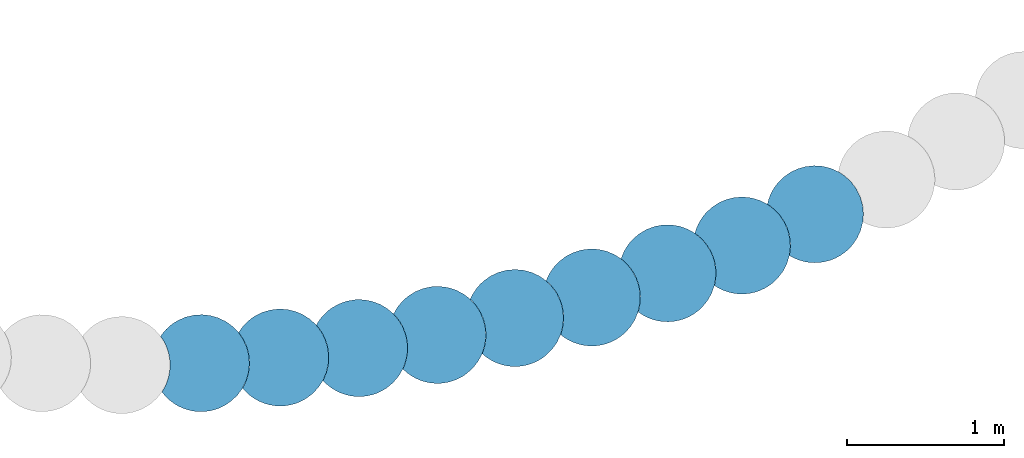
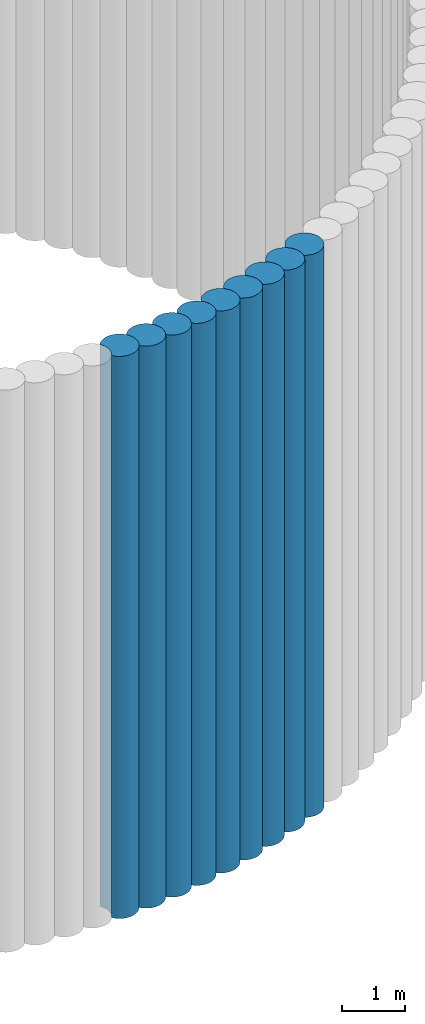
# One storey, part 4 of 16: 9 slabs.
"""IFC2X3 building model written with IfcOpenShell, lengths in centimetres."""

from ifc_helpers import new_model, entity, si_unit, converted_unit, derived_unit, direction, frame, frame_2d, origin, place, context, subcontext, project, spatial, polyline, circle_curve, parameter, trimmed, segment, composite_curve, outline, extrude, material, element, save


model = new_model("IFC2X3")

# Units and contexts
model_context = context("Model", 3, precision=0.001, world=origin(), true_north=direction((6.12303176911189e-17, 1.0)))
body_context = subcontext(model_context, "Body", "Model", "MODEL_VIEW")
ifc_project = project(units=[si_unit("LENGTHUNIT", "METRE", prefix="CENTI"), si_unit("AREAUNIT", "SQUARE_METRE"), si_unit("VOLUMEUNIT", "CUBIC_METRE"), converted_unit("PLANEANGLEUNIT", "DEGREE", entity("IfcRatioMeasure", 0.0174532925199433), si_unit("PLANEANGLEUNIT", "RADIAN"), dimensions=[0, 0, 0, 0, 0, 0, 0]), si_unit("MASSUNIT", "GRAM", prefix="KILO"), derived_unit("MASSDENSITYUNIT", [(si_unit("MASSUNIT", "GRAM", prefix="KILO"), 1), (si_unit("LENGTHUNIT", "METRE"), -3)]), si_unit("TIMEUNIT", "SECOND"), si_unit("FREQUENCYUNIT", "HERTZ"), si_unit("THERMODYNAMICTEMPERATUREUNIT", "DEGREE_CELSIUS"), derived_unit("THERMALTRANSMITTANCEUNIT", [(si_unit("MASSUNIT", "GRAM", prefix="KILO"), 1), (si_unit("THERMODYNAMICTEMPERATUREUNIT", "KELVIN"), -1), (si_unit("TIMEUNIT", "SECOND"), -3)]), derived_unit("VOLUMETRICFLOWRATEUNIT", [(si_unit("LENGTHUNIT", "METRE"), 3), (si_unit("TIMEUNIT", "SECOND"), -1)]), si_unit("ELECTRICCURRENTUNIT", "AMPERE"), si_unit("ELECTRICVOLTAGEUNIT", "VOLT"), si_unit("POWERUNIT", "WATT"), si_unit("FORCEUNIT", "NEWTON", prefix="KILO"), si_unit("ILLUMINANCEUNIT", "LUX"), si_unit("LUMINOUSFLUXUNIT", "LUMEN"), si_unit("LUMINOUSINTENSITYUNIT", "CANDELA"), derived_unit("USERDEFINED", [(si_unit("MASSUNIT", "GRAM", prefix="KILO"), -1), (si_unit("LENGTHUNIT", "METRE"), -2), (si_unit("TIMEUNIT", "SECOND"), 3), (si_unit("LUMINOUSFLUXUNIT", "LUMEN"), 1)]), derived_unit("LINEARVELOCITYUNIT", [(si_unit("LENGTHUNIT", "METRE"), 1), (si_unit("TIMEUNIT", "SECOND"), -1)]), si_unit("PRESSUREUNIT", "PASCAL"), derived_unit("USERDEFINED", [(si_unit("LENGTHUNIT", "METRE"), -2), (si_unit("MASSUNIT", "GRAM", prefix="KILO"), 1), (si_unit("TIMEUNIT", "SECOND"), -2)])], contexts=[model_context])

# Site, building, storey
site_placement = place(None, origin())
site = spatial("IfcSite", under=ifc_project, at=site_placement, Name="Default", CompositionType="ELEMENT")
building_placement = place(site_placement, origin())
building = spatial("IfcBuilding", under=site, at=building_placement, CompositionType="ELEMENT")
storey_placement = place(building_placement, frame((0.0, 0.0, -984.0)))
storey = spatial("IfcBuildingStorey", under=building, at=storey_placement, Name="Niveau Fond de fosse", CompositionType="ELEMENT", Elevation=-984.000000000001)

# Slabs
ifc_material = material(Name="Maçonnerie - Béton coulé sur place")
slab_1_placement = place(storey_placement, origin())
element("IfcSlab", 1, at=slab_1_placement, inside=storey, material=ifc_material, Name="Pieu béton - JBTP:600mm 2", ObjectType="Pieu béton - JBTP:600mm 2", PredefinedType="BASESLAB", context=body_context, shape_type="SweptSolid", body=[
    extrude(outline(composite_curve([segment(trimmed(circle_curve(frame_2d((1.18354648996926, -14.731866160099), x_axis=(1.0, 0.0)), 30.9999999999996), [parameter(180.0)], [parameter(207.444291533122)], True, "PARAMETER"), True, "CONTINUOUS"), segment(trimmed(circle_curve(frame_2d((-22.2236636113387, -59.7464676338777), x_axis=(0.998867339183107, -0.0475819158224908)), 30.9999999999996), [parameter(30.1715642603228)], [parameter(100.334884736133)], True, "PARAMETER"), False, "CONTINUOUS"), segment(trimmed(circle_curve(frame_2d((1.18354648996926, -14.731866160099), x_axis=(1.0, 0.0)), 30.9999999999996), [parameter(277.607612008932)], [parameter(4.07110999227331e-13)], True, "PARAMETER"), True, "CONTINUOUS"), segment(polyline([(32.1835464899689, -14.731866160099), (31.706841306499, -9.31628922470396)]), True, "CONTINUOUS"), segment(polyline([(31.706841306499, -9.31628922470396), (30.2921459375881, -4.0693412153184)]), True, "CONTINUOUS"), segment(polyline([(30.2921459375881, -4.0693412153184), (27.9815446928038, 0.850722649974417)]), True, "CONTINUOUS"), segment(polyline([(27.9815446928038, 0.850722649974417), (24.8625540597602, 5.27574740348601)]), True, "CONTINUOUS"), segment(polyline([(24.8625540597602, 5.27574740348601), (21.0196407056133, 9.0910086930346)]), True, "CONTINUOUS"), segment(polyline([(21.0196407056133, 9.0910086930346), (16.5713553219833, 12.1793831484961)]), True, "CONTINUOUS"), segment(polyline([(16.5713553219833, 12.1793831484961), (11.6531207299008, 14.446687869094)]), True, "CONTINUOUS"), segment(polyline([(11.6531207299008, 14.446687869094), (6.4146529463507, 15.8235838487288)]), True, "CONTINUOUS"), segment(polyline([(6.4146529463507, 15.8235838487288), (1.01547753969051, 16.2676782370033)]), True, "CONTINUOUS"), segment(polyline([(1.01547753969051, 16.2676782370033), (-4.38028118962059, 15.764656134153)]), True, "CONTINUOUS"), segment(polyline([(-4.38028118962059, 15.764656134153), (-9.56967916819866, 14.3433490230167)]), True, "CONTINUOUS"), segment(polyline([(-9.56967916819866, 14.3433490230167), (-14.435362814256, 12.0459170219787)]), True, "CONTINUOUS"), segment(polyline([(-14.435362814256, 12.0459170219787), (-18.8300295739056, 8.94210209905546)]), True, "CONTINUOUS"), segment(polyline([(-18.8300295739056, 8.94210209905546), (-22.6217091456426, 5.12536940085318)]), True, "CONTINUOUS"), segment(polyline([(-22.6217091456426, 5.12536940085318), (-25.6964633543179, 0.710448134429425)]), True, "CONTINUOUS"), segment(polyline([(-25.6964633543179, 0.710448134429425), (-27.9617477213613, -4.17005640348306)]), True, "CONTINUOUS"), segment(polyline([(-27.9617477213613, -4.17005640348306), (-29.3490361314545, -9.36890070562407)]), True, "CONTINUOUS"), segment(polyline([(-29.3490361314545, -9.36890070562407), (-29.8164535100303, -14.7318661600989)]), True, "CONTINUOUS")], self_intersect=False)), frame((63.0564243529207, -1056.65018907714, -300.0), z_axis=(0.0, 0.0, 1.0), x_axis=(0.482329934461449, -0.875989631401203, 0.0)), (0.0, 0.0, 1.0), 1084.0),
])
slab_2_placement = place(storey_placement, origin())
element("IfcSlab", 2, at=slab_2_placement, inside=storey, material=ifc_material, Name="Pieu béton - JBTP:600mm 2", ObjectType="Pieu béton - JBTP:600mm 2", PredefinedType="BASESLAB", context=body_context, shape_type="SweptSolid", body=[
    extrude(outline(composite_curve([segment(trimmed(circle_curve(frame_2d((1.18354648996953, -14.7318661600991), x_axis=(1.0, 0.0)), 30.9999999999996), [parameter(180.0)], [parameter(207.444291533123)], True, "PARAMETER"), True, "CONTINUOUS"), segment(trimmed(circle_curve(frame_2d((-22.2236636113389, -59.7464676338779), x_axis=(0.998867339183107, -0.0475819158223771)), 30.9999999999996), [parameter(30.1715642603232)], [parameter(100.334884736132)], True, "PARAMETER"), False, "CONTINUOUS"), segment(trimmed(circle_curve(frame_2d((1.18354648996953, -14.7318661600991), x_axis=(1.0, 0.0)), 30.9999999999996), [parameter(277.607612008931)], [parameter(4.07110999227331e-13)], True, "PARAMETER"), True, "CONTINUOUS"), segment(polyline([(32.1835464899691, -14.7318661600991), (31.7068413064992, -9.31628922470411)]), True, "CONTINUOUS"), segment(polyline([(31.7068413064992, -9.31628922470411), (30.292145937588, -4.06934121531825)]), True, "CONTINUOUS"), segment(polyline([(30.292145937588, -4.06934121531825), (27.9815446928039, 0.850722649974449)]), True, "CONTINUOUS"), segment(polyline([(27.9815446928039, 0.850722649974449), (24.8625540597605, 5.27574740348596)]), True, "CONTINUOUS"), segment(polyline([(24.8625540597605, 5.27574740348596), (21.0196407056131, 9.09100869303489)]), True, "CONTINUOUS"), segment(polyline([(21.0196407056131, 9.09100869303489), (16.5713553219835, 12.1793831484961)]), True, "CONTINUOUS"), segment(polyline([(16.5713553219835, 12.1793831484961), (11.653120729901, 14.446687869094)]), True, "CONTINUOUS"), segment(polyline([(11.653120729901, 14.446687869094), (6.41465294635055, 15.8235838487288)]), True, "CONTINUOUS"), segment(polyline([(6.41465294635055, 15.8235838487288), (1.0154775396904, 16.2676782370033)]), True, "CONTINUOUS"), segment(polyline([(1.0154775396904, 16.2676782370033), (-4.38028118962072, 15.764656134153)]), True, "CONTINUOUS"), segment(polyline([(-4.38028118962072, 15.764656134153), (-9.56967916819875, 14.3433490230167)]), True, "CONTINUOUS"), segment(polyline([(-9.56967916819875, 14.3433490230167), (-14.4353628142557, 12.0459170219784)]), True, "CONTINUOUS"), segment(polyline([(-14.4353628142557, 12.0459170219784), (-18.8300295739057, 8.94210209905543)]), True, "CONTINUOUS"), segment(polyline([(-18.8300295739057, 8.94210209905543), (-22.6217091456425, 5.12536940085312)]), True, "CONTINUOUS"), segment(polyline([(-22.6217091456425, 5.12536940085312), (-25.6964633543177, 0.71044813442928)]), True, "CONTINUOUS"), segment(polyline([(-25.6964633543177, 0.71044813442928), (-27.9617477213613, -4.17005640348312)]), True, "CONTINUOUS"), segment(polyline([(-27.9617477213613, -4.17005640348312), (-29.3490361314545, -9.36890070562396)]), True, "CONTINUOUS"), segment(polyline([(-29.3490361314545, -9.36890070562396), (-29.81645351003, -14.731866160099)]), True, "CONTINUOUS")], self_intersect=False)), frame((113.262443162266, -1052.45301733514, -300.0), z_axis=(0.0, 0.0, 1.0), x_axis=(0.52346488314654, -0.852047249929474, 0.0)), (0.0, 0.0, 1.0), 1084.0),
])
slab_3_placement = place(storey_placement, origin())
element("IfcSlab", 3, at=slab_3_placement, inside=storey, material=ifc_material, Name="Pieu béton - JBTP:600mm 2", ObjectType="Pieu béton - JBTP:600mm 2", PredefinedType="BASESLAB", context=body_context, shape_type="SweptSolid", body=[
    extrude(outline(composite_curve([segment(trimmed(circle_curve(frame_2d((1.18354648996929, -14.7318661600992), x_axis=(1.0, 0.0)), 30.9999999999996), [parameter(180.0)], [parameter(207.444291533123)], True, "PARAMETER"), True, "CONTINUOUS"), segment(trimmed(circle_curve(frame_2d((-22.2236636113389, -59.746467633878), x_axis=(0.998867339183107, -0.0475819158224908)), 30.9999999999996), [parameter(30.1715642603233)], [parameter(100.334884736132)], True, "PARAMETER"), False, "CONTINUOUS"), segment(trimmed(circle_curve(frame_2d((1.18354648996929, -14.7318661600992), x_axis=(1.0, 0.0)), 30.9999999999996), [parameter(277.607612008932)], [parameter(4.07110999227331e-13)], True, "PARAMETER"), True, "CONTINUOUS"), segment(polyline([(32.1835464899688, -14.7318661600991), (31.7068413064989, -9.31628922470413)]), True, "CONTINUOUS"), segment(polyline([(31.7068413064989, -9.31628922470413), (30.2921459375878, -4.06934121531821)]), True, "CONTINUOUS"), segment(polyline([(30.2921459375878, -4.06934121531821), (27.9815446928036, 0.850722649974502)]), True, "CONTINUOUS"), segment(polyline([(27.9815446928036, 0.850722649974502), (24.8625540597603, 5.27574740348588)]), True, "CONTINUOUS"), segment(polyline([(24.8625540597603, 5.27574740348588), (21.0196407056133, 9.09100869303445)]), True, "CONTINUOUS"), segment(polyline([(21.0196407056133, 9.09100869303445), (16.5713553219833, 12.179383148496)]), True, "CONTINUOUS"), segment(polyline([(16.5713553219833, 12.179383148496), (11.6531207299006, 14.4466878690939)]), True, "CONTINUOUS"), segment(polyline([(11.6531207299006, 14.4466878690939), (6.41465294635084, 15.8235838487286)]), True, "CONTINUOUS"), segment(polyline([(6.41465294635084, 15.8235838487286), (1.01547753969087, 16.2676782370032)]), True, "CONTINUOUS"), segment(polyline([(1.01547753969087, 16.2676782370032), (-4.38028118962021, 15.7646561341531)]), True, "CONTINUOUS"), segment(polyline([(-4.38028118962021, 15.7646561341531), (-9.56967916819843, 14.3433490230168)]), True, "CONTINUOUS"), segment(polyline([(-9.56967916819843, 14.3433490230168), (-14.4353628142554, 12.0459170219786)]), True, "CONTINUOUS"), segment(polyline([(-14.4353628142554, 12.0459170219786), (-18.8300295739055, 8.94210209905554)]), True, "CONTINUOUS"), segment(polyline([(-18.8300295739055, 8.94210209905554), (-22.6217091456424, 5.12536940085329)]), True, "CONTINUOUS"), segment(polyline([(-22.6217091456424, 5.12536940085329), (-25.6964633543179, 0.710448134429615)]), True, "CONTINUOUS"), segment(polyline([(-25.6964633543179, 0.710448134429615), (-27.9617477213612, -4.17005640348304)]), True, "CONTINUOUS"), segment(polyline([(-27.9617477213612, -4.17005640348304), (-29.3490361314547, -9.36890070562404)]), True, "CONTINUOUS"), segment(polyline([(-29.3490361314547, -9.36890070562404), (-29.8164535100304, -14.731866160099)]), True, "CONTINUOUS")], self_intersect=False)), frame((163.211886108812, -1045.87170100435, -300.0), z_axis=(0.0, 0.0, 1.0), x_axis=(0.563414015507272, -0.826174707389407, 0.0)), (0.0, 0.0, 1.0), 1084.0),
])
slab_4_placement = place(storey_placement, origin())
element("IfcSlab", 4, at=slab_4_placement, inside=storey, material=ifc_material, Name="Pieu béton - JBTP:600mm 2", ObjectType="Pieu béton - JBTP:600mm 2", PredefinedType="BASESLAB", context=body_context, shape_type="SweptSolid", body=[
    extrude(outline(composite_curve([segment(trimmed(circle_curve(frame_2d((1.1835464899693, -14.7318661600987), x_axis=(1.0, 0.0)), 30.9999999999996), [parameter(180.0)], [parameter(207.444291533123)], True, "PARAMETER"), True, "CONTINUOUS"), segment(trimmed(circle_curve(frame_2d((-22.2236636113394, -59.7464676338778), x_axis=(0.998867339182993, -0.047581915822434)), 30.9999999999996), [parameter(30.1715642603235)], [parameter(100.334884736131)], True, "PARAMETER"), False, "CONTINUOUS"), segment(trimmed(circle_curve(frame_2d((1.1835464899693, -14.7318661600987), x_axis=(1.0, 0.0)), 30.9999999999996), [parameter(277.60761200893)], [parameter(4.07110999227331e-13)], True, "PARAMETER"), True, "CONTINUOUS"), segment(polyline([(32.1835464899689, -14.7318661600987), (31.7068413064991, -9.3162892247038)]), True, "CONTINUOUS"), segment(polyline([(31.7068413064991, -9.3162892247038), (30.2921459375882, -4.06934121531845)]), True, "CONTINUOUS"), segment(polyline([(30.2921459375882, -4.06934121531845), (27.9815446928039, 0.850722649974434)]), True, "CONTINUOUS"), segment(polyline([(27.9815446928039, 0.850722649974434), (24.8625540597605, 5.27574740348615)]), True, "CONTINUOUS"), segment(polyline([(24.8625540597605, 5.27574740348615), (21.0196407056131, 9.09100869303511)]), True, "CONTINUOUS"), segment(polyline([(21.0196407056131, 9.09100869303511), (16.5713553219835, 12.1793831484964)]), True, "CONTINUOUS"), segment(polyline([(16.5713553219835, 12.1793831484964), (11.6531207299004, 14.4466878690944)]), True, "CONTINUOUS"), segment(polyline([(11.6531207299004, 14.4466878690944), (6.41465294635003, 15.8235838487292)]), True, "CONTINUOUS"), segment(polyline([(6.41465294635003, 15.8235838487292), (1.01547753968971, 16.2676782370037)]), True, "CONTINUOUS"), segment(polyline([(1.01547753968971, 16.2676782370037), (-4.3802811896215, 15.7646561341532)]), True, "CONTINUOUS"), segment(polyline([(-4.3802811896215, 15.7646561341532), (-9.56967916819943, 14.3433490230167)]), True, "CONTINUOUS"), segment(polyline([(-9.56967916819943, 14.3433490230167), (-14.4353628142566, 12.0459170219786)]), True, "CONTINUOUS"), segment(polyline([(-14.4353628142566, 12.0459170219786), (-18.8300295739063, 8.94210209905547)]), True, "CONTINUOUS"), segment(polyline([(-18.8300295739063, 8.94210209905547), (-22.6217091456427, 5.12536940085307)]), True, "CONTINUOUS"), segment(polyline([(-22.6217091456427, 5.12536940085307), (-25.6964633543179, 0.710448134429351)]), True, "CONTINUOUS"), segment(polyline([(-25.6964633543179, 0.710448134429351), (-27.9617477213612, -4.17005640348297)]), True, "CONTINUOUS"), segment(polyline([(-27.9617477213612, -4.17005640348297), (-29.3490361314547, -9.36890070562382)]), True, "CONTINUOUS"), segment(polyline([(-29.3490361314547, -9.36890070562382), (-29.8164535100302, -14.7318661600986)]), True, "CONTINUOUS")], self_intersect=False)), frame((212.791601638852, -1036.92114888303, -300.0), z_axis=(0.0, 0.0, 1.0), x_axis=(0.602086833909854, -0.79843061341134, 0.0)), (0.0, 0.0, 1.0), 1084.0),
])
slab_5_placement = place(storey_placement, origin())
element("IfcSlab", 5, at=slab_5_placement, inside=storey, material=ifc_material, Name="Pieu béton - JBTP:600mm 2", ObjectType="Pieu béton - JBTP:600mm 2", PredefinedType="BASESLAB", context=body_context, shape_type="SweptSolid", body=[
    extrude(outline(composite_curve([segment(trimmed(circle_curve(frame_2d((1.18354648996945, -14.7318661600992), x_axis=(1.0, 0.0)), 30.9999999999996), [parameter(180.0)], [parameter(207.444291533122)], True, "PARAMETER"), True, "CONTINUOUS"), segment(trimmed(circle_curve(frame_2d((-22.2236636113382, -59.7464676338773), x_axis=(0.998867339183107, -0.0475819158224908)), 30.9999999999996), [parameter(30.1715642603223)], [parameter(100.334884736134)], True, "PARAMETER"), False, "CONTINUOUS"), segment(trimmed(circle_curve(frame_2d((1.18354648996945, -14.7318661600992), x_axis=(1.0, 0.0)), 30.9999999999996), [parameter(277.607612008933)], [parameter(4.07110999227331e-13)], True, "PARAMETER"), True, "CONTINUOUS"), segment(polyline([(32.183546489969, -14.7318661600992), (31.7068413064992, -9.31628922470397)]), True, "CONTINUOUS"), segment(polyline([(31.7068413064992, -9.31628922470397), (30.2921459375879, -4.06934121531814)]), True, "CONTINUOUS"), segment(polyline([(30.2921459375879, -4.06934121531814), (27.9815446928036, 0.85072264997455)]), True, "CONTINUOUS"), segment(polyline([(27.9815446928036, 0.85072264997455), (24.8625540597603, 5.27574740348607)]), True, "CONTINUOUS"), segment(polyline([(24.8625540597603, 5.27574740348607), (21.0196407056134, 9.0910086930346)]), True, "CONTINUOUS"), segment(polyline([(21.0196407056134, 9.0910086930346), (16.5713553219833, 12.1793831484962)]), True, "CONTINUOUS"), segment(polyline([(16.5713553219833, 12.1793831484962), (11.6531207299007, 14.4466878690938)]), True, "CONTINUOUS"), segment(polyline([(11.6531207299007, 14.4466878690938), (6.41465294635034, 15.8235838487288)]), True, "CONTINUOUS"), segment(polyline([(6.41465294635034, 15.8235838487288), (1.01547753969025, 16.2676782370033)]), True, "CONTINUOUS"), segment(polyline([(1.01547753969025, 16.2676782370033), (-4.38028118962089, 15.764656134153)]), True, "CONTINUOUS"), segment(polyline([(-4.38028118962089, 15.764656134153), (-9.56967916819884, 14.3433490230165)]), True, "CONTINUOUS"), segment(polyline([(-9.56967916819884, 14.3433490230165), (-14.4353628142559, 12.0459170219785)]), True, "CONTINUOUS"), segment(polyline([(-14.4353628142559, 12.0459170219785), (-18.8300295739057, 8.9421020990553)]), True, "CONTINUOUS"), segment(polyline([(-18.8300295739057, 8.9421020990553), (-22.6217091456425, 5.12536940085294)]), True, "CONTINUOUS"), segment(polyline([(-22.6217091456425, 5.12536940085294), (-25.6964633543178, 0.710448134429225)]), True, "CONTINUOUS"), segment(polyline([(-25.6964633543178, 0.710448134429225), (-27.9617477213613, -4.17005640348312)]), True, "CONTINUOUS"), segment(polyline([(-27.9617477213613, -4.17005640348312), (-29.3490361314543, -9.36890070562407)]), True, "CONTINUOUS"), segment(polyline([(-29.3490361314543, -9.36890070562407), (-29.8164535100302, -14.7318661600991)]), True, "CONTINUOUS")], self_intersect=False)), frame((261.889275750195, -1025.62163685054, -300.0), z_axis=(0.0, 0.0, 1.0), x_axis=(0.639395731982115, -0.768877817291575, 0.0)), (0.0, 0.0, 1.0), 1084.0),
])
slab_6_placement = place(storey_placement, origin())
element("IfcSlab", 6, at=slab_6_placement, inside=storey, material=ifc_material, Name="Pieu béton - JBTP:600mm 2", ObjectType="Pieu béton - JBTP:600mm 2", PredefinedType="BASESLAB", context=body_context, shape_type="SweptSolid", body=[
    extrude(outline(composite_curve([segment(trimmed(circle_curve(frame_2d((1.18354648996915, -14.7318661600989), x_axis=(1.0, 0.0)), 30.9999999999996), [parameter(180.0)], [parameter(207.444291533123)], True, "PARAMETER"), True, "CONTINUOUS"), segment(trimmed(circle_curve(frame_2d((-22.2236636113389, -59.7464676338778), x_axis=(0.998867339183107, -0.0475819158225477)), 30.9999999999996), [parameter(30.1715642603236)], [parameter(100.334884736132)], True, "PARAMETER"), False, "CONTINUOUS"), segment(trimmed(circle_curve(frame_2d((1.18354648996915, -14.7318661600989), x_axis=(1.0, 0.0)), 30.9999999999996), [parameter(277.607612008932)], [parameter(4.07110999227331e-13)], True, "PARAMETER"), True, "CONTINUOUS"), segment(polyline([(32.1835464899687, -14.7318661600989), (31.7068413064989, -9.31628922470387)]), True, "CONTINUOUS"), segment(polyline([(31.7068413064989, -9.31628922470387), (30.2921459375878, -4.06934121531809)]), True, "CONTINUOUS"), segment(polyline([(30.2921459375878, -4.06934121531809), (27.9815446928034, 0.850722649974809)]), True, "CONTINUOUS"), segment(polyline([(27.9815446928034, 0.850722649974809), (24.8625540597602, 5.2757474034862)]), True, "CONTINUOUS"), segment(polyline([(24.8625540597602, 5.2757474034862), (21.019640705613, 9.09100869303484)]), True, "CONTINUOUS"), segment(polyline([(21.019640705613, 9.09100869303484), (16.5713553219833, 12.1793831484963)]), True, "CONTINUOUS"), segment(polyline([(16.5713553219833, 12.1793831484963), (11.6531207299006, 14.4466878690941)]), True, "CONTINUOUS"), segment(polyline([(11.6531207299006, 14.4466878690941), (6.41465294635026, 15.823583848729)]), True, "CONTINUOUS"), segment(polyline([(6.41465294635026, 15.823583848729), (1.0154775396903, 16.2676782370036)]), True, "CONTINUOUS"), segment(polyline([(1.0154775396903, 16.2676782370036), (-4.38028118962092, 15.7646561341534)]), True, "CONTINUOUS"), segment(polyline([(-4.38028118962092, 15.7646561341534), (-9.56967916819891, 14.343349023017)]), True, "CONTINUOUS"), segment(polyline([(-9.56967916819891, 14.343349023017), (-14.435362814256, 12.0459170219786)]), True, "CONTINUOUS"), segment(polyline([(-14.435362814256, 12.0459170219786), (-18.8300295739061, 8.94210209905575)]), True, "CONTINUOUS"), segment(polyline([(-18.8300295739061, 8.94210209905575), (-22.6217091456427, 5.12536940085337)]), True, "CONTINUOUS"), segment(polyline([(-22.6217091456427, 5.12536940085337), (-25.6964633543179, 0.710448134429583)]), True, "CONTINUOUS"), segment(polyline([(-25.6964633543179, 0.710448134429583), (-27.9617477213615, -4.17005640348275)]), True, "CONTINUOUS"), segment(polyline([(-27.9617477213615, -4.17005640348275), (-29.3490361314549, -9.36890070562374)]), True, "CONTINUOUS"), segment(polyline([(-29.3490361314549, -9.36890070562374), (-29.8164535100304, -14.7318661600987)]), True, "CONTINUOUS")], self_intersect=False)), frame((310.393686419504, -1011.99876193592, -300.0), z_axis=(0.0, 0.0, 1.0), x_axis=(0.675256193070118, -0.737583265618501, 0.0)), (0.0, 0.0, 1.0), 1084.0),
])
slab_7_placement = place(storey_placement, origin())
element("IfcSlab", 7, at=slab_7_placement, inside=storey, material=ifc_material, Name="Pieu béton - JBTP:600mm 2", ObjectType="Pieu béton - JBTP:600mm 2", PredefinedType="BASESLAB", context=body_context, shape_type="SweptSolid", body=[
    extrude(outline(composite_curve([segment(trimmed(circle_curve(frame_2d((1.1835464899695, -14.7318661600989), x_axis=(1.0, 0.0)), 30.9999999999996), [parameter(180.0)], [parameter(207.444291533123)], True, "PARAMETER"), True, "CONTINUOUS"), segment(trimmed(circle_curve(frame_2d((-22.2236636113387, -59.7464676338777), x_axis=(0.998867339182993, -0.047581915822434)), 30.9999999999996), [parameter(30.1715642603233)], [parameter(100.334884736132)], True, "PARAMETER"), False, "CONTINUOUS"), segment(trimmed(circle_curve(frame_2d((1.1835464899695, -14.7318661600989), x_axis=(1.0, 0.0)), 30.9999999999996), [parameter(277.607612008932)], [parameter(4.07110999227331e-13)], True, "PARAMETER"), True, "CONTINUOUS"), segment(polyline([(32.1835464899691, -14.7318661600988), (31.7068413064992, -9.31628922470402)]), True, "CONTINUOUS"), segment(polyline([(31.7068413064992, -9.31628922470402), (30.2921459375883, -4.06934121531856)]), True, "CONTINUOUS"), segment(polyline([(30.2921459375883, -4.06934121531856), (27.9815446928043, 0.85072264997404)]), True, "CONTINUOUS"), segment(polyline([(27.9815446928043, 0.85072264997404), (24.8625540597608, 5.27574740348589)]), True, "CONTINUOUS"), segment(polyline([(24.8625540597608, 5.27574740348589), (21.0196407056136, 9.09100869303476)]), True, "CONTINUOUS"), segment(polyline([(21.0196407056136, 9.09100869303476), (16.5713553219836, 12.1793831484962)]), True, "CONTINUOUS"), segment(polyline([(16.5713553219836, 12.1793831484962), (11.653120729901, 14.4466878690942)]), True, "CONTINUOUS"), segment(polyline([(11.653120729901, 14.4466878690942), (6.41465294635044, 15.823583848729)]), True, "CONTINUOUS"), segment(polyline([(6.41465294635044, 15.823583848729), (1.01547753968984, 16.2676782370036)]), True, "CONTINUOUS"), segment(polyline([(1.01547753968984, 16.2676782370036), (-4.38028118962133, 15.7646561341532)]), True, "CONTINUOUS"), segment(polyline([(-4.38028118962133, 15.7646561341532), (-9.5696791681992, 14.3433490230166)]), True, "CONTINUOUS"), segment(polyline([(-9.5696791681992, 14.3433490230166), (-14.4353628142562, 12.0459170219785)]), True, "CONTINUOUS"), segment(polyline([(-14.4353628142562, 12.0459170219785), (-18.8300295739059, 8.94210209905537)]), True, "CONTINUOUS"), segment(polyline([(-18.8300295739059, 8.94210209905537), (-22.6217091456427, 5.12536940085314)]), True, "CONTINUOUS"), segment(polyline([(-22.6217091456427, 5.12536940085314), (-25.6964633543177, 0.710448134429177)]), True, "CONTINUOUS"), segment(polyline([(-25.6964633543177, 0.710448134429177), (-27.9617477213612, -4.17005640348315)]), True, "CONTINUOUS"), segment(polyline([(-27.9617477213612, -4.17005640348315), (-29.3490361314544, -9.368900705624)]), True, "CONTINUOUS"), segment(polyline([(-29.3490361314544, -9.368900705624), (-29.81645351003, -14.7318661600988)]), True, "CONTINUOUS")], self_intersect=False)), frame((358.194955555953, -996.083384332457, -300.0), z_axis=(0.0, 0.0, 1.0), x_axis=(0.709586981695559, -0.704617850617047, 0.0)), (0.0, 0.0, 1.0), 1084.0),
])
slab_8_placement = place(storey_placement, origin())
element("IfcSlab", 8, at=slab_8_placement, inside=storey, material=ifc_material, Name="Pieu béton - JBTP:600mm 2", ObjectType="Pieu béton - JBTP:600mm 2", PredefinedType="BASESLAB", context=body_context, shape_type="SweptSolid", body=[
    extrude(outline(composite_curve([segment(trimmed(circle_curve(frame_2d((1.18354648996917, -14.7318661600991), x_axis=(1.0, 0.0)), 30.9999999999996), [parameter(180.0)], [parameter(207.444291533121)], True, "PARAMETER"), True, "CONTINUOUS"), segment(trimmed(circle_curve(frame_2d((-22.2236636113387, -59.7464676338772), x_axis=(0.998867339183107, -0.0475819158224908)), 30.9999999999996), [parameter(30.1715642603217)], [parameter(100.334884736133)], True, "PARAMETER"), False, "CONTINUOUS"), segment(trimmed(circle_curve(frame_2d((1.18354648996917, -14.7318661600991), x_axis=(1.0, 0.0)), 30.9999999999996), [parameter(277.607612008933)], [parameter(4.07110999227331e-13)], True, "PARAMETER"), True, "CONTINUOUS"), segment(polyline([(32.1835464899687, -14.7318661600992), (31.7068413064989, -9.31628922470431)]), True, "CONTINUOUS"), segment(polyline([(31.7068413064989, -9.31628922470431), (30.2921459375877, -4.06934121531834)]), True, "CONTINUOUS"), segment(polyline([(30.2921459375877, -4.06934121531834), (27.9815446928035, 0.850722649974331)]), True, "CONTINUOUS"), segment(polyline([(27.9815446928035, 0.850722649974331), (24.8625540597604, 5.2757474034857)]), True, "CONTINUOUS"), segment(polyline([(24.8625540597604, 5.2757474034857), (21.0196407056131, 9.09100869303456)]), True, "CONTINUOUS"), segment(polyline([(21.0196407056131, 9.09100869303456), (16.5713553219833, 12.1793831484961)]), True, "CONTINUOUS"), segment(polyline([(16.5713553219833, 12.1793831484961), (11.6531207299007, 14.4466878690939)]), True, "CONTINUOUS"), segment(polyline([(11.6531207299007, 14.4466878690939), (6.41465294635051, 15.8235838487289)]), True, "CONTINUOUS"), segment(polyline([(6.41465294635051, 15.8235838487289), (1.01547753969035, 16.2676782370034)]), True, "CONTINUOUS"), segment(polyline([(1.01547753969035, 16.2676782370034), (-4.38028118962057, 15.764656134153)]), True, "CONTINUOUS"), segment(polyline([(-4.38028118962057, 15.764656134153), (-9.56967916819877, 14.3433490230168)]), True, "CONTINUOUS"), segment(polyline([(-9.56967916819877, 14.3433490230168), (-14.435362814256, 12.0459170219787)]), True, "CONTINUOUS"), segment(polyline([(-14.435362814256, 12.0459170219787), (-18.8300295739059, 8.94210209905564)]), True, "CONTINUOUS"), segment(polyline([(-18.8300295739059, 8.94210209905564), (-22.6217091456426, 5.12536940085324)]), True, "CONTINUOUS"), segment(polyline([(-22.6217091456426, 5.12536940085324), (-25.6964633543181, 0.710448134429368)]), True, "CONTINUOUS"), segment(polyline([(-25.6964633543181, 0.710448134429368), (-27.9617477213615, -4.17005640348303)]), True, "CONTINUOUS"), segment(polyline([(-27.9617477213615, -4.17005640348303), (-29.3490361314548, -9.36890070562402)]), True, "CONTINUOUS"), segment(polyline([(-29.3490361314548, -9.36890070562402), (-29.8164535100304, -14.7318661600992)]), True, "CONTINUOUS")], self_intersect=False)), frame((405.18479791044, -977.911557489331, -300.0), z_axis=(0.0, 0.0, 1.0), x_axis=(0.742310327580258, -0.670056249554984, 0.0)), (0.0, 0.0, 1.0), 1084.0),
])
slab_9_placement = place(storey_placement, origin())
element("IfcSlab", 9, at=slab_9_placement, inside=storey, material=ifc_material, Name="Pieu béton - JBTP:600mm 2", ObjectType="Pieu béton - JBTP:600mm 2", PredefinedType="BASESLAB", context=body_context, shape_type="SweptSolid", body=[
    extrude(outline(composite_curve([segment(trimmed(circle_curve(frame_2d((1.18354648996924, -14.7318661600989), x_axis=(1.0, 0.0)), 30.9999999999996), [parameter(180.0)], [parameter(207.444291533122)], True, "PARAMETER"), True, "CONTINUOUS"), segment(trimmed(circle_curve(frame_2d((-22.2236636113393, -59.7464676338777), x_axis=(0.998867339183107, -0.0475819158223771)), 30.9999999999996), [parameter(30.1715642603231)], [parameter(100.334884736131)], True, "PARAMETER"), False, "CONTINUOUS"), segment(trimmed(circle_curve(frame_2d((1.18354648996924, -14.7318661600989), x_axis=(1.0, 0.0)), 30.9999999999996), [parameter(277.607612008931)], [parameter(4.07110999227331e-13)], True, "PARAMETER"), True, "CONTINUOUS"), segment(polyline([(32.1835464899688, -14.7318661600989), (31.706841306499, -9.31628922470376)]), True, "CONTINUOUS"), segment(polyline([(31.706841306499, -9.31628922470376), (30.2921459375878, -4.06934121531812)]), True, "CONTINUOUS"), segment(polyline([(30.2921459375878, -4.06934121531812), (27.9815446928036, 0.850722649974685)]), True, "CONTINUOUS"), segment(polyline([(27.9815446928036, 0.850722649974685), (24.8625540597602, 5.27574740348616)]), True, "CONTINUOUS"), segment(polyline([(24.8625540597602, 5.27574740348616), (21.0196407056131, 9.09100869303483)]), True, "CONTINUOUS"), segment(polyline([(21.0196407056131, 9.09100869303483), (16.5713553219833, 12.1793831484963)]), True, "CONTINUOUS"), segment(polyline([(16.5713553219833, 12.1793831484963), (11.6531207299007, 14.4466878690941)]), True, "CONTINUOUS"), segment(polyline([(11.6531207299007, 14.4466878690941), (6.41465294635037, 15.823583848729)]), True, "CONTINUOUS"), segment(polyline([(6.41465294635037, 15.823583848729), (1.01547753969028, 16.2676782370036)]), True, "CONTINUOUS"), segment(polyline([(1.01547753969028, 16.2676782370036), (-4.38028118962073, 15.7646561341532)]), True, "CONTINUOUS"), segment(polyline([(-4.38028118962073, 15.7646561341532), (-9.56967916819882, 14.3433490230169)]), True, "CONTINUOUS"), segment(polyline([(-9.56967916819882, 14.3433490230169), (-14.4353628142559, 12.0459170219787)]), True, "CONTINUOUS"), segment(polyline([(-14.4353628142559, 12.0459170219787), (-18.8300295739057, 8.94210209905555)]), True, "CONTINUOUS"), segment(polyline([(-18.8300295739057, 8.94210209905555), (-22.6217091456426, 5.12536940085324)]), True, "CONTINUOUS"), segment(polyline([(-22.6217091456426, 5.12536940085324), (-25.696463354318, 0.710448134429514)]), True, "CONTINUOUS"), segment(polyline([(-25.696463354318, 0.710448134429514), (-27.9617477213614, -4.17005640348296)]), True, "CONTINUOUS"), segment(polyline([(-27.9617477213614, -4.17005640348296), (-29.3490361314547, -9.36890070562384)]), True, "CONTINUOUS"), segment(polyline([(-29.3490361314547, -9.36890070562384), (-29.8164535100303, -14.7318661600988)]), True, "CONTINUOUS")], self_intersect=False)), frame((451.256766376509, -957.524446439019, -300.0), z_axis=(0.0, 0.0, 1.0), x_axis=(0.773352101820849, -0.633976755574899, 0.0)), (0.0, 0.0, 1.0), 1084.0),
])

save(model, "model.ifc")
